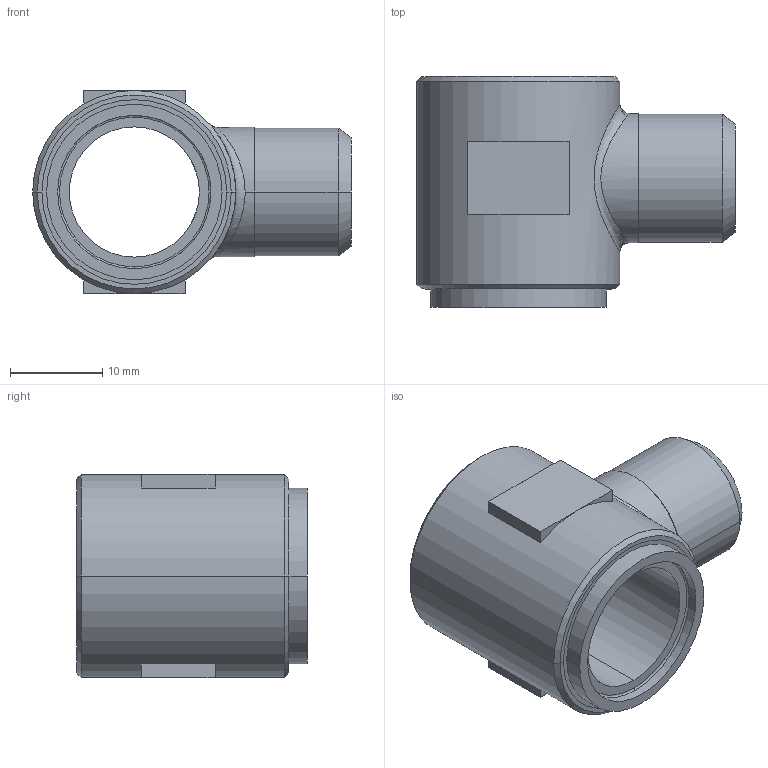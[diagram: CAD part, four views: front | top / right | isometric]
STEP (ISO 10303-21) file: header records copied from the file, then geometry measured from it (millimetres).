
FILE_DESCRIPTION((''),'2;1');
FILE_NAME('101314.stp','2007-10-30T15:40:15',(''),(''),'AutoCAD STEP 2000i','AutoCAD 2000i',', , ');
FILE_SCHEMA(('CONFIG_CONTROL_DESIGN'));
Length unit declared in the file: millimetre
Products named in the file (2): 101314.0; 1094#0
Assembly tree (1 placements, depth 2):
  101314.0
    1094#0
Bounding box: 34.5 x 25 x 22 mm (x, y, z)
Volume: 6982.8 mm3; surface area: 4052.9 mm2
Topology: 1 solids, 1 shells, 54 faces, 125 edges, 79 vertices
Faces by surface type: plane 21, cylinder 16, cone 12, bspline 5
Entity records: 2076 total; most frequent: CARTESIAN_POINT 708, DIRECTION 281, ORIENTED_EDGE 250, EDGE_CURVE 125, AXIS2_PLACEMENT_3D 114, VERTEX_POINT 79, EDGE_LOOP 64, CIRCLE 63
